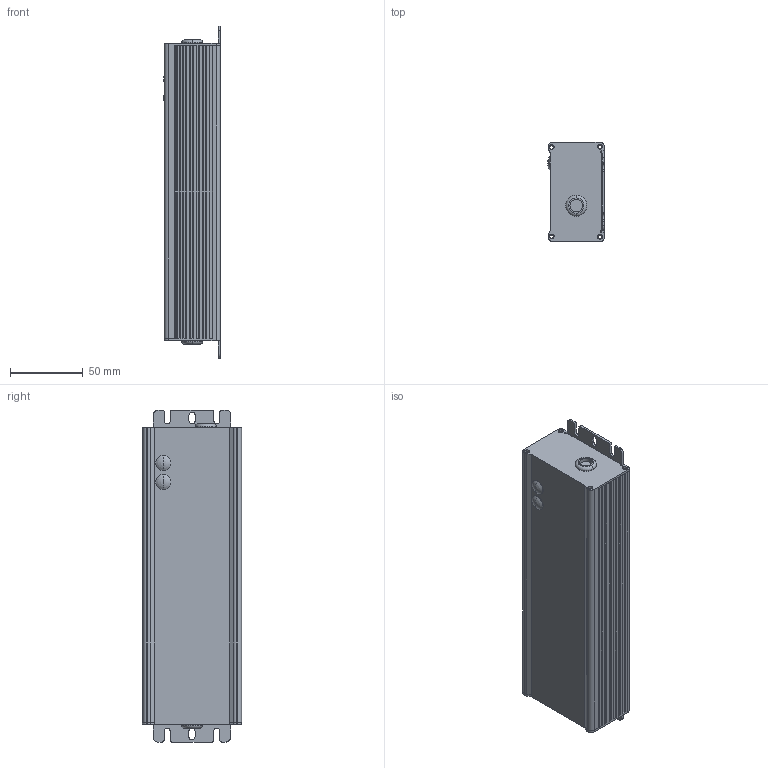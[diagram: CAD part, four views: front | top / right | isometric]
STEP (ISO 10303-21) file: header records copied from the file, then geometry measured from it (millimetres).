
FILE_DESCRIPTION(('Creo Elements/Direct Modeling STEP Export'),'2;1');
FILE_NAME('HEP-185-A.stp','2017-04-18T 9:36:27',(''),(''),'PTC Creo Elements/Direct Modeling STEP processor for AP214 (Solid Model)','PTC Creo Elements/Direct Modeling 19.0 09-May-2014 (C) Parametric Technology GmbH','');
FILE_SCHEMA(('AUTOMOTIVE_DESIGN { 1 0 10303 214 1 1 1 1 }'));
Length unit declared in the file: millimetre
Products named in the file (1): HEP-185-A
Bounding box: 39.04 x 68.05 x 228 mm (x, y, z)
Volume: 96399.2 mm3; surface area: 104259.8 mm2
Topology: 1 solids, 1 shells, 305 faces, 855 edges, 554 vertices
Faces by surface type: plane 168, cylinder 101, cone 24, torus 8, sphere 4
Entity records: 8972 total; most frequent: ORIENTED_EDGE 1702, CARTESIAN_POINT 1519, DIRECTION 1412, EDGE_CURVE 851, VERTEX_POINT 554, VECTOR 518, LINE 518, AXIS2_PLACEMENT_3D 447
